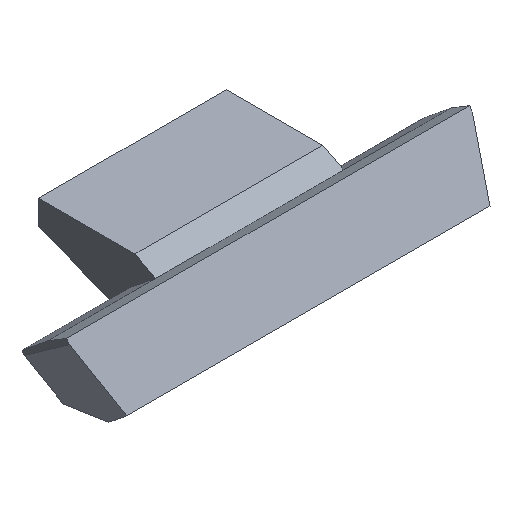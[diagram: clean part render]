
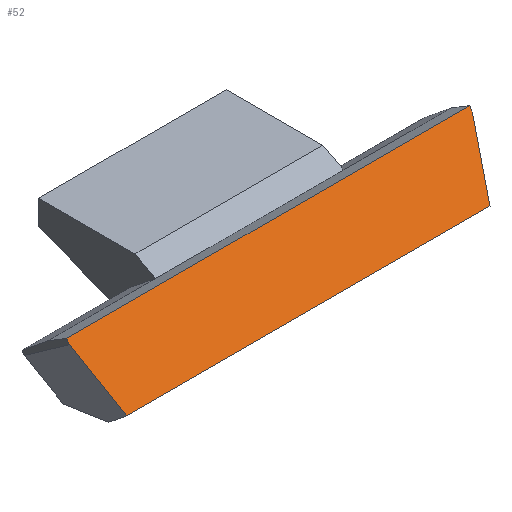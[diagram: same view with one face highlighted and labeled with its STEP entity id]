
A CAD part, isometric view. The second image highlights one B-rep face of the part: STEP entity #52.
In plain terms, the highlighted planar face has unit normal (0, -0.816, 0.578).
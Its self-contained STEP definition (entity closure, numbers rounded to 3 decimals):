
#52 = ADVANCED_FACE( '', ( #113 ), #114, .F. );
#113 = FACE_OUTER_BOUND( '', #182, .T. );
#114 = PLANE( '', #183 );
#182 = EDGE_LOOP( '', ( #270, #271, #272, #273, #274, #275 ) );
#183 = AXIS2_PLACEMENT_3D( '', #276, #277, #278 );
#270 = ORIENTED_EDGE( '', *, *, #430, .F. );
#271 = ORIENTED_EDGE( '', *, *, #431, .F. );
#272 = ORIENTED_EDGE( '', *, *, #432, .F. );
#273 = ORIENTED_EDGE( '', *, *, #433, .F. );
#274 = ORIENTED_EDGE( '', *, *, #422, .T. );
#275 = ORIENTED_EDGE( '', *, *, #434, .T. );
#276 = CARTESIAN_POINT( '', ( 68.609, -13.31, 0.024 ) );
#277 = DIRECTION( '', ( 0., 0.816, -0.578 ) );
#278 = DIRECTION( '', ( 0., 0.578, 0.816 ) );
#422 = EDGE_CURVE( '', #501, #499, #502, .T. );
#430 = EDGE_CURVE( '', #512, #513, #514, .T. );
#431 = EDGE_CURVE( '', #515, #512, #516, .T. );
#432 = EDGE_CURVE( '', #517, #515, #518, .T. );
#433 = EDGE_CURVE( '', #501, #517, #519, .T. );
#434 = EDGE_CURVE( '', #499, #513, #520, .T. );
#499 = VERTEX_POINT( '', #609 );
#501 = VERTEX_POINT( '', #612 );
#502 = LINE( '', #613, #614 );
#512 = VERTEX_POINT( '', #629 );
#513 = VERTEX_POINT( '', #630 );
#514 = LINE( '', #631, #632 );
#515 = VERTEX_POINT( '', #633 );
#516 = LINE( '', #634, #635 );
#517 = VERTEX_POINT( '', #636 );
#518 = LINE( '', #637, #638 );
#519 = LINE( '', #639, #640 );
#520 = LINE( '', #641, #642 );
#609 = CARTESIAN_POINT( '', ( -68.609, -13.31, 0.024 ) );
#612 = CARTESIAN_POINT( '', ( 68.609, -13.31, 0.024 ) );
#613 = CARTESIAN_POINT( '', ( 68.609, -13.31, 0.024 ) );
#614 = VECTOR( '', #733, 1000. );
#629 = CARTESIAN_POINT( '', ( -61.865, -27.02, -19.348 ) );
#630 = CARTESIAN_POINT( '', ( -68.609, -14.279, -1.345 ) );
#631 = CARTESIAN_POINT( '', ( -57.346, -35.558, -31.413 ) );
#632 = VECTOR( '', #739, 1000. );
#633 = CARTESIAN_POINT( '', ( 61.865, -27.02, -19.348 ) );
#634 = CARTESIAN_POINT( '', ( 68.609, -27.02, -19.348 ) );
#635 = VECTOR( '', #740, 1000. );
#636 = CARTESIAN_POINT( '', ( 68.609, -14.279, -1.345 ) );
#637 = CARTESIAN_POINT( '', ( 69.078, -13.393, -0.093 ) );
#638 = VECTOR( '', #741, 1000. );
#639 = CARTESIAN_POINT( '', ( 68.609, -13.31, 0.024 ) );
#640 = VECTOR( '', #742, 1000. );
#641 = CARTESIAN_POINT( '', ( -68.609, -13.31, 0.024 ) );
#642 = VECTOR( '', #743, 1000. );
#733 = DIRECTION( '', ( -1., 0., 0. ) );
#739 = DIRECTION( '', ( -0.292, 0.552, 0.781 ) );
#740 = DIRECTION( '', ( -1., 0., 0. ) );
#741 = DIRECTION( '', ( -0.292, -0.552, -0.781 ) );
#742 = DIRECTION( '', ( 0., -0.578, -0.816 ) );
#743 = DIRECTION( '', ( 0., -0.578, -0.816 ) );
